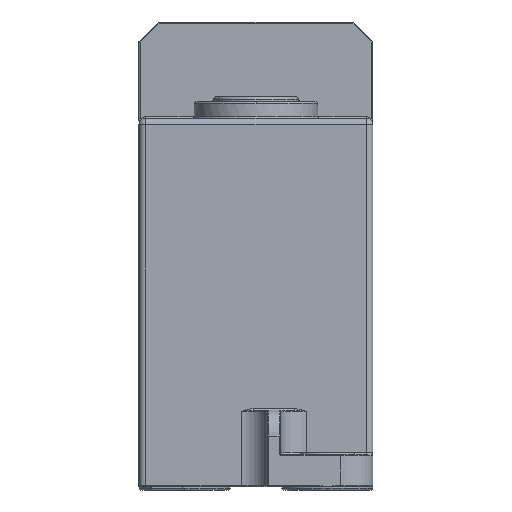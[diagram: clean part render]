
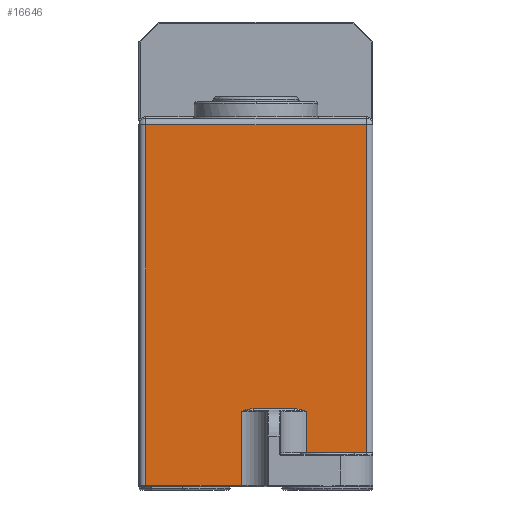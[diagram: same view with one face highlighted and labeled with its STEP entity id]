
A CAD part, left-side view. The second image highlights one B-rep face of the part: STEP entity #16646.
In plain terms, the highlighted planar face has unit normal (-1, 0, 0).
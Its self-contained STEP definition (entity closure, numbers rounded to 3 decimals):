
#52 = VERTEX_POINT ( 'NONE', #23590 ) ;
#561 = CARTESIAN_POINT ( 'NONE',  ( -24.5, 2.25, 11.6 ) ) ;
#685 = B_SPLINE_CURVE_WITH_KNOTS ( 'NONE', 3,
 ( #16815, #36020, #32655, #16547, #39495, #16677 ),
 .UNSPECIFIED., .F., .F.,
 ( 4, 2, 4 ),
 ( 0., 0.001, 0.002 ),
 .UNSPECIFIED. ) ;
#1079 = CARTESIAN_POINT ( 'NONE',  ( -24.5, 18., 55.7 ) ) ;
#1443 = EDGE_CURVE ( 'NONE', #22213, #52, #14952, .T. ) ;
#2508 = ORIENTED_EDGE ( 'NONE', *, *, #30201, .T. ) ;
#2762 = CARTESIAN_POINT ( 'NONE',  ( -24.5, -5.961, 12. ) ) ;
#2790 = VERTEX_POINT ( 'NONE', #14271 ) ;
#3487 = CARTESIAN_POINT ( 'NONE',  ( -24.5, -7.75, 5. ) ) ;
#4070 = EDGE_CURVE ( 'NONE', #4799, #2790, #11428, .T. ) ;
#4105 = DIRECTION ( 'NONE',  ( 0., 0., -1. ) ) ;
#4296 = DIRECTION ( 'NONE',  ( 0., 1., 0. ) ) ;
#4799 = VERTEX_POINT ( 'NONE', #33038 ) ;
#6025 = EDGE_CURVE ( 'NONE', #6455, #22213, #22130, .T. ) ;
#6107 = CARTESIAN_POINT ( 'NONE',  ( -24.5, -6.27, 12. ) ) ;
#6455 = VERTEX_POINT ( 'NONE', #15639 ) ;
#6507 = EDGE_CURVE ( 'NONE', #22426, #6455, #30909, .T. ) ;
#6859 = VECTOR ( 'NONE', #26146, 1000. ) ;
#8495 = VECTOR ( 'NONE', #40509, 1000. ) ;
#8933 = LINE ( 'NONE', #28750, #39168 ) ;
#9353 = CARTESIAN_POINT ( 'NONE',  ( -24.5, -7.166, 11.79 ) ) ;
#9744 = VERTEX_POINT ( 'NONE', #24986 ) ;
#10014 = ORIENTED_EDGE ( 'NONE', *, *, #33886, .T. ) ;
#11428 = LINE ( 'NONE', #32396, #40616 ) ;
#13659 = PLANE ( 'NONE',  #20359 ) ;
#14271 = CARTESIAN_POINT ( 'NONE',  ( -24.5, 2.25, 0.2 ) ) ;
#14290 = EDGE_CURVE ( 'NONE', #17227, #9744, #29684, .T. ) ;
#14952 = LINE ( 'NONE', #3487, #6859 ) ;
#15257 = DIRECTION ( 'NONE',  ( 0., 0., 1. ) ) ;
#15639 = CARTESIAN_POINT ( 'NONE',  ( -24.5, -5.961, 12. ) ) ;
#16547 = CARTESIAN_POINT ( 'NONE',  ( -24.5, 1.071, 11.941 ) ) ;
#16646 = ADVANCED_FACE ( 'NONE', ( #20638 ), #13659, .F. ) ;
#16677 = CARTESIAN_POINT ( 'NONE',  ( -24.5, 0.461, 12. ) ) ;
#16783 = ORIENTED_EDGE ( 'NONE', *, *, #6025, .T. ) ;
#16815 = CARTESIAN_POINT ( 'NONE',  ( -24.5, 2.25, 11.6 ) ) ;
#17227 = VERTEX_POINT ( 'NONE', #20534 ) ;
#17244 = EDGE_CURVE ( 'NONE', #9744, #4799, #30182, .T. ) ;
#18616 = CARTESIAN_POINT ( 'NONE',  ( -24.5, -18., 12. ) ) ;
#19166 = ORIENTED_EDGE ( 'NONE', *, *, #40920, .T. ) ;
#20359 = AXIS2_PLACEMENT_3D ( 'NONE', #27083, #20425, #4105 ) ;
#20425 = DIRECTION ( 'NONE',  ( 1., 0., 0. ) ) ;
#20534 = CARTESIAN_POINT ( 'NONE',  ( -24.5, -17., 55.7 ) ) ;
#20576 = VECTOR ( 'NONE', #4296, 1000. ) ;
#20638 = FACE_OUTER_BOUND ( 'NONE', #22703, .T. ) ;
#20730 = LINE ( 'NONE', #35901, #24793 ) ;
#21532 = DIRECTION ( 'NONE',  ( 0., -1., 0. ) ) ;
#22130 = B_SPLINE_CURVE_WITH_KNOTS ( 'NONE', 3,
 ( #2762, #6107, #28815, #9353, #28531, #32069 ),
 .UNSPECIFIED., .F., .F.,
 ( 4, 2, 4 ),
 ( 0., 0.001, 0.002 ),
 .UNSPECIFIED. ) ;
#22213 = VERTEX_POINT ( 'NONE', #30849 ) ;
#22426 = VERTEX_POINT ( 'NONE', #31410 ) ;
#22703 = EDGE_LOOP ( 'NONE', ( #40708, #29180, #26491, #19166, #41726, #16783, #33523, #10014, #2508, #40227 ) ) ;
#23590 = CARTESIAN_POINT ( 'NONE',  ( -24.5, -7.75, 5.2 ) ) ;
#24118 = VERTEX_POINT ( 'NONE', #561 ) ;
#24275 = CARTESIAN_POINT ( 'NONE',  ( -24.5, -17., 5.2 ) ) ;
#24793 = VECTOR ( 'NONE', #38845, 1000. ) ;
#24986 = CARTESIAN_POINT ( 'NONE',  ( -24.5, 17., 55.7 ) ) ;
#25006 = EDGE_CURVE ( 'NONE', #2790, #24118, #40053, .T. ) ;
#26146 = DIRECTION ( 'NONE',  ( 0., 0., -1. ) ) ;
#26491 = ORIENTED_EDGE ( 'NONE', *, *, #25006, .T. ) ;
#27083 = CARTESIAN_POINT ( 'NONE',  ( -24.5, -18., 59.2 ) ) ;
#28531 = CARTESIAN_POINT ( 'NONE',  ( -24.5, -7.459, 11.694 ) ) ;
#28750 = CARTESIAN_POINT ( 'NONE',  ( -24.5, -17., 59.2 ) ) ;
#28815 = CARTESIAN_POINT ( 'NONE',  ( -24.5, -6.571, 11.941 ) ) ;
#29180 = ORIENTED_EDGE ( 'NONE', *, *, #4070, .T. ) ;
#29684 = LINE ( 'NONE', #1079, #20576 ) ;
#30182 = LINE ( 'NONE', #37181, #8495 ) ;
#30201 = EDGE_CURVE ( 'NONE', #39089, #17227, #8933, .T. ) ;
#30849 = CARTESIAN_POINT ( 'NONE',  ( -24.5, -7.75, 11.6 ) ) ;
#30909 = LINE ( 'NONE', #18616, #33938 ) ;
#31338 = CARTESIAN_POINT ( 'NONE',  ( -24.5, 2.25, 59.2 ) ) ;
#31410 = CARTESIAN_POINT ( 'NONE',  ( -24.5, 0.461, 12. ) ) ;
#32069 = CARTESIAN_POINT ( 'NONE',  ( -24.5, -7.75, 11.6 ) ) ;
#32396 = CARTESIAN_POINT ( 'NONE',  ( -24.5, 2.25, 0.2 ) ) ;
#32655 = CARTESIAN_POINT ( 'NONE',  ( -24.5, 1.666, 11.79 ) ) ;
#33038 = CARTESIAN_POINT ( 'NONE',  ( -24.5, 17., 0.2 ) ) ;
#33523 = ORIENTED_EDGE ( 'NONE', *, *, #1443, .T. ) ;
#33886 = EDGE_CURVE ( 'NONE', #52, #39089, #20730, .T. ) ;
#33938 = VECTOR ( 'NONE', #21532, 1000. ) ;
#35486 = DIRECTION ( 'NONE',  ( 0., -1., 0. ) ) ;
#35901 = CARTESIAN_POINT ( 'NONE',  ( -24.5, -18., 5.2 ) ) ;
#36020 = CARTESIAN_POINT ( 'NONE',  ( -24.5, 1.958, 11.695 ) ) ;
#37181 = CARTESIAN_POINT ( 'NONE',  ( -24.5, 17., 59.2 ) ) ;
#38055 = VECTOR ( 'NONE', #15257, 1000. ) ;
#38845 = DIRECTION ( 'NONE',  ( 0., -1., 0. ) ) ;
#39089 = VERTEX_POINT ( 'NONE', #24275 ) ;
#39168 = VECTOR ( 'NONE', #41505, 1000. ) ;
#39495 = CARTESIAN_POINT ( 'NONE',  ( -24.5, 0.77, 12. ) ) ;
#40053 = LINE ( 'NONE', #31338, #38055 ) ;
#40227 = ORIENTED_EDGE ( 'NONE', *, *, #14290, .T. ) ;
#40509 = DIRECTION ( 'NONE',  ( 0., 0., -1. ) ) ;
#40616 = VECTOR ( 'NONE', #35486, 1000. ) ;
#40708 = ORIENTED_EDGE ( 'NONE', *, *, #17244, .T. ) ;
#40920 = EDGE_CURVE ( 'NONE', #24118, #22426, #685, .T. ) ;
#41505 = DIRECTION ( 'NONE',  ( 0., 0., 1. ) ) ;
#41726 = ORIENTED_EDGE ( 'NONE', *, *, #6507, .T. ) ;
